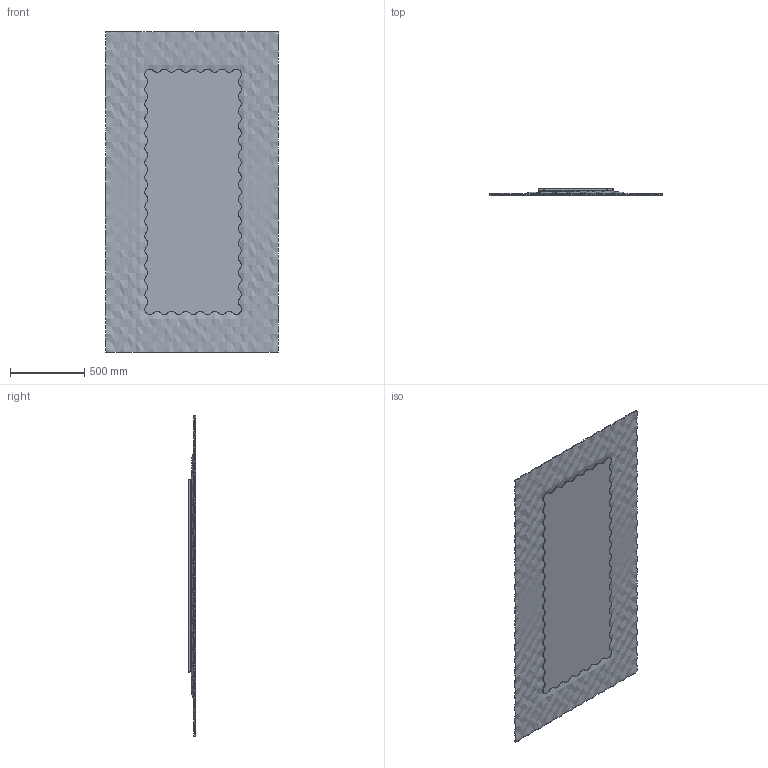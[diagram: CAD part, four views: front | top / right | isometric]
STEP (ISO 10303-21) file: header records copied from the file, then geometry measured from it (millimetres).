
FILE_DESCRIPTION(/* description */ (''),/* implementation_level */ '2;1');
FILE_NAME(/* name */ 'POP_116x216',/* time_stamp */ '2025-02-21T17:59:09+01:00',/* author */ (''),/* organization */ (''),/* preprocessor_version */ 'ST-DEVELOPER v16.5',/* originating_system */ '',/* authorisation */ '');
FILE_SCHEMA (('AUTOMOTIVE_DESIGN'));
Length unit declared in the file: millimetre
Products named in the file (1): Document
Bounding box: 1161.14 x 50.89 x 2160.31 mm (x, y, z)
Volume: 20438882.8 mm3; surface area: 8153627.1 mm2
Topology: 12 solids, 12 shells, 172 faces, 434 edges, 290 vertices
Faces by surface type: bspline 98, plane 74
Entity records: 188692 total; most frequent: CARTESIAN_POINT 186124, ORIENTED_EDGE 864, EDGE_CURVE 432, VERTEX_POINT 288, EDGE_LOOP 180, ADVANCED_FACE 172, FACE_OUTER_BOUND 172, B_SPLINE_CURVE_WITH_KNOTS 158
